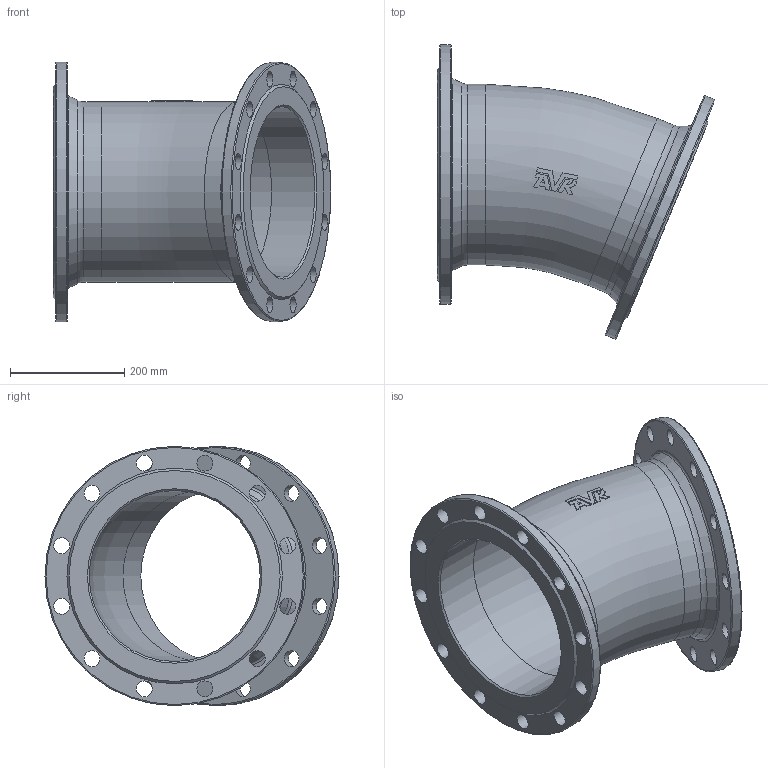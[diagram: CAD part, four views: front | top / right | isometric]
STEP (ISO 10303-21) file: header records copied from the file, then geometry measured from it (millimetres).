
FILE_DESCRIPTION (( 'STEP AP203' ), '1' );
FILE_NAME ('O_712_0210_DN300_1X_REV01.step', '2024-08-15T12:16:11', ( '' ), ( '' ), 'SwSTEP 2.0', 'SolidWorks 2022', '' );
FILE_SCHEMA (( 'CONFIG_CONTROL_DESIGN' ));
Length unit declared in the file: millimetre
Products named in the file (1): O_712_0210_DN300_1X_REV01
Bounding box: 486.76 x 515.9 x 455 mm (x, y, z)
Volume: 7070179.2 mm3; surface area: 1161197.9 mm2
Topology: 1 solids, 1 shells, 93 faces, 264 edges, 181 vertices
Faces by surface type: plane 41, cylinder 32, torus 14, cone 6
Full cylindrical faces by diameter (mm): 28 x24, 300 x2, 317 x2, 455 x2
Entity records: 2860 total; most frequent: CARTESIAN_POINT 717, DIRECTION 377, ORIENTED_EDGE 374, EDGE_LOOP 197, EDGE_CURVE 187, AXIS2_PLACEMENT_3D 170, VERTEX_POINT 150, FACE_OUTER_BOUND 133
